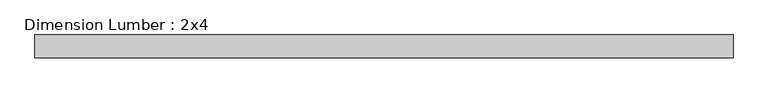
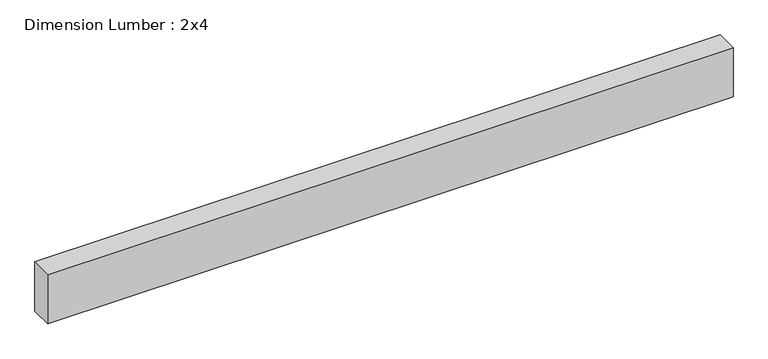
"""IFC4 building model written with IfcOpenShell, lengths in millimetres: beam geometry, Dimension Lumber : 2x4."""

import ifcopenshell
import ifcopenshell.guid

model = None  # the IFC model being written
_history = None  # IfcOwnerHistory: only IFC2X3 demands one
_inside = {}  # id of a spatial element -> (the spatial element, [elements in it])
_under = {}  # id of a project, library or spatial element -> (it, [spatial elements below it])
_declared = {}  # id of a project -> (the project, [libraries it declares])
_typed = {}  # id of a type object -> (the type object, [elements of that type])
_made_of = {}  # id of a material, layer set ... -> (it, [elements and type objects made of it])


def new_model(schema):
    """Start an empty IFC model of exactly this schema.

    Asked for "IFC4X3", IfcOpenShell would pick the latest addendum, in which some entities
    have other attributes; the version numbers below select the first issue.
    IFC2X3 requires an IfcOwnerHistory on every rooted entity: one is made here for all.
    """
    global model, _history
    if schema == "IFC4X3":
        model = ifcopenshell.file(schema_version=(4, 3, 0, 0))
    else:
        model = ifcopenshell.file(schema=schema)
    _inside.clear()
    _under.clear()
    _declared.clear()
    _typed.clear()
    _made_of.clear()
    _history = None
    if model.schema == "IFC2X3":
        org = make("IfcOrganization", Name="unknown")
        user = make(
            "IfcPersonAndOrganization",
            ThePerson=make("IfcPerson", FamilyName="unknown"),
            TheOrganization=org,
        )
        app = make(
            "IfcApplication",
            ApplicationDeveloper=org,
            Version="unknown",
            ApplicationFullName="unknown",
            ApplicationIdentifier="unknown",
        )
        _history = make(
            "IfcOwnerHistory",
            OwningUser=user,
            OwningApplication=app,
            ChangeAction="ADDED",
            CreationDate=0,
        )
    return model


def make(cls, **values):
    """One entity of the class cls with the attributes given. An attribute that is None is left unset."""
    return model.create_entity(
        cls, **{name: value for name, value in values.items() if value is not None}
    )


def rooted(cls, **values):
    """An entity with a GlobalId (a new one), such as an element, a storey or a relation."""
    return make(cls, GlobalId=ifcopenshell.guid.new(), OwnerHistory=_history, **values)


def si_unit(unit_type, name, prefix=None):
    """IfcSIUnit, for example si_unit("LENGTHUNIT", "METRE", prefix="MILLI")."""
    return make("IfcSIUnit", UnitType=unit_type, Prefix=prefix, Name=name)


def assignment(units):
    """IfcUnitAssignment: the units of a project."""
    return None if units is None else make("IfcUnitAssignment", Units=units)


def point(xyz):
    """IfcCartesianPoint."""
    return None if xyz is None else make("IfcCartesianPoint", Coordinates=xyz)


def direction(xyz):
    """IfcDirection."""
    return None if xyz is None else make("IfcDirection", DirectionRatios=xyz)


def frame(location, z_axis=None, x_axis=None):
    """IfcAxis2Placement3D, a coordinate frame: its origin and axes. An axis left out is left unset."""
    return make(
        "IfcAxis2Placement3D",
        Location=point(location),
        Axis=direction(z_axis),
        RefDirection=direction(x_axis),
    )


def origin():
    """The frame at (0, 0, 0) with its axes left unset."""
    return frame((0.0, 0.0, 0.0))


def place(relative_to, where):
    """IfcLocalPlacement: puts the frame where relative to a parent placement (None: the world)."""
    return make(
        "IfcLocalPlacement", PlacementRelTo=relative_to, RelativePlacement=where
    )


def context(
    kind, dimensions, precision=None, world=None, true_north=None, identifier=None
):
    """IfcGeometricRepresentationContext, for example the 3D "Model" context."""
    return make(
        "IfcGeometricRepresentationContext",
        ContextIdentifier=identifier,
        ContextType=kind,
        CoordinateSpaceDimension=dimensions,
        Precision=precision,
        WorldCoordinateSystem=world,
        TrueNorth=true_north,
    )


def project(units=None, contexts=None):
    """IfcProject with its units and contexts."""
    return rooted(
        "IfcProject",
        Name="project",
        RepresentationContexts=contexts,
        UnitsInContext=assignment(units),
    )


def spatial(cls, under=None, at=None, **own):
    """A site, building, storey or space (cls), placed at a placement, below another one or the project."""
    s = rooted(cls, ObjectPlacement=at, **own)
    if under is not None:
        _under.setdefault(under.id(), (under, []))[1].append(s)
    return s


def polyline(points):
    """IfcPolyline through the points."""
    return make("IfcPolyline", Points=[point(p) for p in points])


def outline(outer, holes=None, kind="AREA"):
    """IfcArbitraryClosedProfileDef: a profile drawn as a closed curve; with holes, ...WithVoids."""
    if holes is None:
        return make("IfcArbitraryClosedProfileDef", ProfileType=kind, OuterCurve=outer)
    return make(
        "IfcArbitraryProfileDefWithVoids",
        ProfileType=kind,
        OuterCurve=outer,
        InnerCurves=holes,
    )


def extrude(swept, where, along, depth):
    """IfcExtrudedAreaSolid: the profile swept, set in the frame where, extruded along a direction by depth."""
    return make(
        "IfcExtrudedAreaSolid",
        SweptArea=swept,
        Position=where,
        ExtrudedDirection=direction(along),
        Depth=depth,
    )


def shape(context_of_items, identifier, shape_type, items):
    """IfcShapeRepresentation: the items that make up one representation, for example the "Body"."""
    return make(
        "IfcShapeRepresentation",
        ContextOfItems=context_of_items,
        RepresentationIdentifier=identifier,
        RepresentationType=shape_type,
        Items=items,
    )


def source(mapping_origin, context_of_items, identifier, shape_type, items):
    """IfcRepresentationMap: a shape defined once, which mapped items show again and again."""
    return make(
        "IfcRepresentationMap",
        MappingOrigin=mapping_origin,
        MappedRepresentation=shape(context_of_items, identifier, shape_type, items),
    )


def transform(
    local_origin,
    x_axis=None,
    y_axis=None,
    z_axis=None,
    scale=None,
    scale2=None,
    scale3=None,
    uniform=True,
):
    """IfcCartesianTransformationOperator3D, or its non-uniform kind. x_axis, y_axis, z_axis: its Axis1, 2, 3."""
    if uniform:
        return make(
            "IfcCartesianTransformationOperator3D",
            Axis1=direction(x_axis),
            Axis2=direction(y_axis),
            LocalOrigin=point(local_origin),
            Scale=scale,
            Axis3=direction(z_axis),
        )
    return make(
        "IfcCartesianTransformationOperator3DnonUniform",
        Axis1=direction(x_axis),
        Axis2=direction(y_axis),
        LocalOrigin=point(local_origin),
        Scale=scale,
        Axis3=direction(z_axis),
        Scale2=scale2,
        Scale3=scale3,
    )


def mapped(mapping_source, mapping_target):
    """IfcMappedItem: shows the shape of a source again, moved by a transform."""
    return make(
        "IfcMappedItem", MappingSource=mapping_source, MappingTarget=mapping_target
    )


def made_of(thing, what):
    """Note that an element or type object is made of a material, layer set ...; save() writes the relation."""
    if what is not None:
        _made_of.setdefault(what.id(), (what, []))[1].append(thing)
    return thing


def element(
    cls,
    number,
    at=None,
    inside=None,
    cuts=None,
    type_object=None,
    material=None,
    context=None,
    identifier="Body",
    shape_type=None,
    held_by="IfcProductDefinitionShape",
    body=None,
    shapes=None,
    **own,
):
    """One element of the class cls, such as IfcWall. Its Tag is "e" and its number.

    at: its placement. inside: the storey or other place that contains it. cuts: it is an
    opening in that element (IfcRelVoidsElement). A single representation is given by context,
    identifier, shape_type and body (its items); several are given by shapes. held_by: the class
    of the entity that holds the representations. save() writes the other relations.
    """
    e = rooted(cls, Tag="e%d" % number, ObjectPlacement=at, **own)
    if body is not None:
        shapes = [shape(context, identifier, shape_type, body)]
    if shapes is not None:
        e.Representation = make(held_by, Representations=shapes)
    if inside is not None:
        _inside.setdefault(inside.id(), (inside, []))[1].append(e)
    if cuts is not None:
        rooted(
            "IfcRelVoidsElement", RelatingBuildingElement=cuts, RelatedOpeningElement=e
        )
    if type_object is not None:
        _typed.setdefault(type_object.id(), (type_object, []))[1].append(e)
    return made_of(e, material)


def aggregate(whole, parts):
    """IfcRelAggregates: a whole, such as a stair, and the parts it consists of."""
    return rooted("IfcRelAggregates", RelatingObject=whole, RelatedObjects=parts)


def save(model, path):
    """Write the relations noted so far, then the file.

    IfcRelAggregates (storeys below a building ...), IfcRelContainedInSpatialStructure (elements
    in a storey), IfcRelDefinesByType, IfcRelAssociatesMaterial and IfcRelDeclares: one each for
    every whole, place, type object, material and project.
    """
    for whole, parts in _under.values():
        aggregate(whole, parts)
    for where, things in _inside.values():
        rooted(
            "IfcRelContainedInSpatialStructure",
            RelatedElements=things,
            RelatingStructure=where,
        )
    for kind, things in _typed.values():
        rooted("IfcRelDefinesByType", RelatedObjects=things, RelatingType=kind)
    for what, things in _made_of.values():
        rooted("IfcRelAssociatesMaterial", RelatedObjects=things, RelatingMaterial=what)
    for by, libraries in _declared.values():
        rooted("IfcRelDeclares", RelatingContext=by, RelatedDefinitions=libraries)
    model.write(path)


def dimension_lumber_2x4_20ab47b0(model_context):
    return source(origin(), model_context, "Body", "SweptSolid", [
        extrude(outline(polyline([(586.0520833, 19.05), (586.0520833, -19.05), (-586.0520833, -19.05), (-586.0520833, 19.05), (586.0520833, 19.05)])), frame((0.0, 0.0, -44.45), z_axis=(0.0, 0.0, 1.0), x_axis=(1.0, 0.0, 0.0)), (0.0, 0.0, 1.0), 88.9),
    ])


if __name__ == "__main__":
    model = new_model("IFC4")
    model_context = context("Model", 3, world=origin())
    ifc_project = project(units=[si_unit("LENGTHUNIT", "METRE", prefix="MILLI")], contexts=[model_context])
    site = spatial("IfcSite", under=ifc_project)
    building = spatial("IfcBuilding", under=site)
    placement = place(None, origin())
    dimension_lumber_2x4_shape = dimension_lumber_2x4_20ab47b0(model_context)
    element("IfcBeam", 1, ObjectType="Dimension Lumber : 2x4", at=placement, inside=building, context=model_context, shape_type="MappedRepresentation", body=[
        mapped(dimension_lumber_2x4_shape, transform((0.0, 0.0, 0.0), x_axis=(1.0, 0.0, 0.0), y_axis=(0.0, 1.0, 0.0), z_axis=(0.0, 0.0, 1.0))),
    ])
    save(model, "model.ifc")
